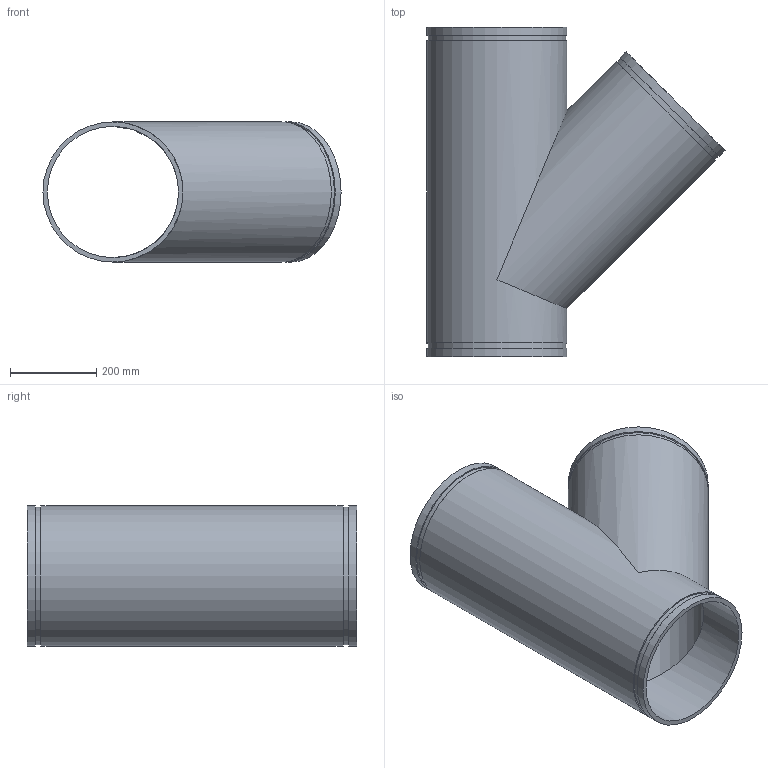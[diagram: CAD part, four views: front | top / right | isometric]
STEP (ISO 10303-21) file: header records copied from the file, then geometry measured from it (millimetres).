
FILE_DESCRIPTION(/* description */ ('VIC 45 DEG FABRICATED LATERAL No 30 SWS (OGS)','CAx-IF Rec.Pracs.---Representation and Presentation of Product Manufacturing Information (PMI)---4.0---2014-10-13'),/* implementation_level */ '2;1');
FILE_NAME(/* name */ 'C:\Users\kkamble\AppData\Roaming\Autodesk\ApplicationPlugins\Back Up\Victaulic_IPS_Lateral 45 Deg_No 30 SWS (OGS)\Victaulic_IPS_Lateral 45 Deg_No 30 SWS (OGS)_12 (300).stp',/* time_stamp */ '2020-09-16T22:21:10+06:00',/* author */ ('cgray'),/* organization */ ('Victaulic'),/* preprocessor_version */ 'ST-DEVELOPER v17.2',/* originating_system */ 'Autodesk Inventor 2019',/* authorisation */ '');
FILE_SCHEMA (('AP242_MANAGED_MODEL_BASED_3D_ENGINEERING_MIM_LF { 1 0 10303 442 1 1 4 }'));
Length unit declared in the file: inch
Products named in the file (1): 30 SWS-12.0
Bounding box: 689.51 x 762 x 323.85 mm (x, y, z)
Volume: 10699127.9 mm3; surface area: 2141970.7 mm2
Topology: 1 solids, 1 shells, 19 faces, 45 edges, 34 vertices
Faces by surface type: cylinder 10, plane 9
Full cylindrical faces by diameter (mm): 303.225 x2, 318.287 x3, 323.85 x5
Entity records: 748 total; most frequent: DIRECTION 145, CARTESIAN_POINT 116, ORIENTED_EDGE 90, AXIS2_PLACEMENT_3D 67, EDGE_CURVE 45, VERTEX_POINT 34, EDGE_LOOP 29, CIRCLE 27
